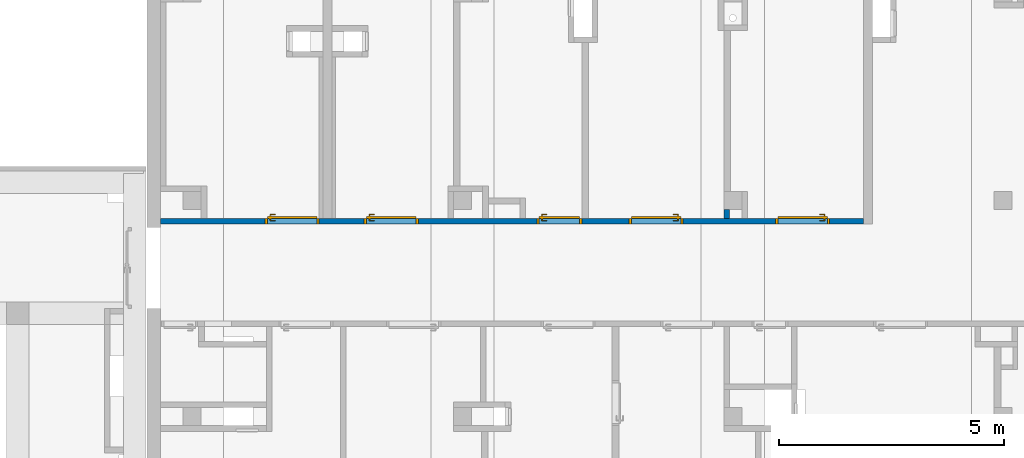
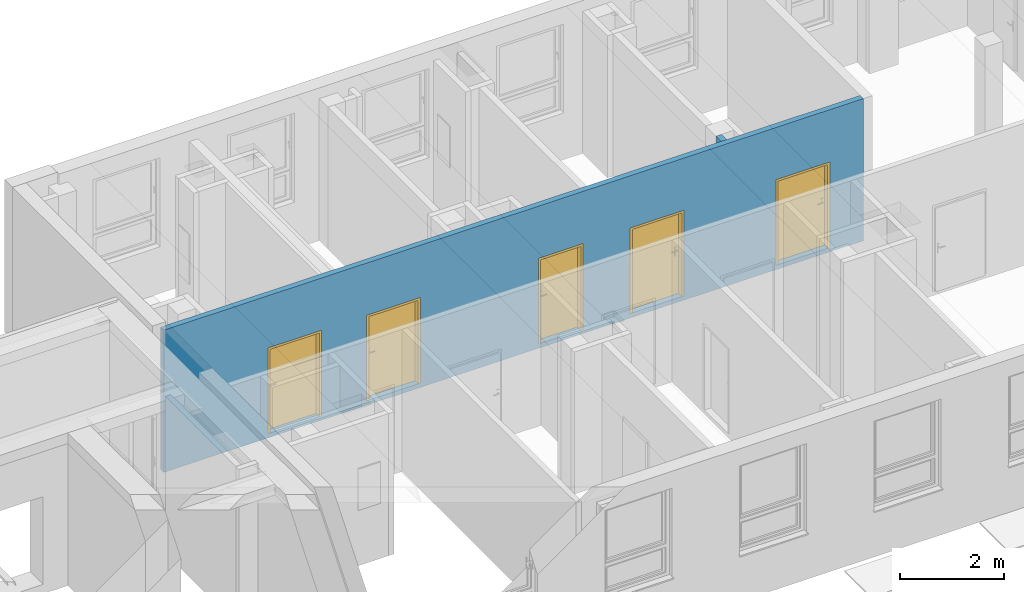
# One storey, part 23 of 140: 5 doors, 2 walls, 5 openings.
"""IFC4 building model written with IfcOpenShell, lengths in metres."""

from ifc_helpers import new_model, entity, si_unit, converted_unit, derived_unit, frame, frame_2d, origin, origin_with_axes, place, context, subcontext, project, spatial, polyline, rectangle, outline, extrude, closed_shell, open_shell, surface_model, source, transform, mapped, material, layer, layer_set, layer_usage, type_object, element, fill, save


model = new_model("IFC4")

# Units and contexts
model_context = context("Model", 3, precision=1e-05, world=origin())
body_context = subcontext(model_context, "Body", "Model", "MODEL_VIEW")
ifc_project = project(units=[si_unit("LENGTHUNIT", "METRE"), si_unit("AREAUNIT", "SQUARE_METRE"), si_unit("VOLUMEUNIT", "CUBIC_METRE"), si_unit("MASSUNIT", "GRAM", prefix="KILO"), converted_unit("PLANEANGLEUNIT", "DEGREE", entity("IfcPlaneAngleMeasure", 0.0174532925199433), si_unit("PLANEANGLEUNIT", "RADIAN"), dimensions=[0, 0, 0, 0, 0, 0, 0]), derived_unit("THERMALTRANSMITTANCEUNIT", [(si_unit("POWERUNIT", "WATT"), 1), (si_unit("THERMODYNAMICTEMPERATUREUNIT", "KELVIN"), -1), (si_unit("LENGTHUNIT", "METRE"), -2)]), derived_unit("VOLUMETRICFLOWRATEUNIT", [(si_unit("LENGTHUNIT", "METRE"), 3), (converted_unit("TIMEUNIT", "hour", entity("IfcTimeMeasure", 3600.0), si_unit("TIMEUNIT", "SECOND"), dimensions=[0, 0, 1, 0, 0, 0, 0]), -1), (si_unit("LENGTHUNIT", "METRE"), -1)])], contexts=[model_context])

# Site, building, storey
site_placement = place(None, origin())
site = spatial("IfcSite", under=ifc_project, at=site_placement, Name="3. ASŘ", CompositionType="ELEMENT")
building_placement = place(site_placement, origin())
building = spatial("IfcBuilding", under=site, at=building_placement, Name="Pavilon C", CompositionType="ELEMENT")
storey_placement = place(building_placement, origin())
storey = spatial("IfcBuildingStorey", under=building, at=storey_placement, Name="Půdorys 1.NP", CompositionType="ELEMENT", Elevation=0.0)

# Wall
ifc_material_1 = material(Name="ZDIVO Z CDm")
ifc_layer_1 = layer(ifc_material_1, 0.125)
ifc_layer_set_1 = layer_set([ifc_layer_1])
ifc_layer_usage_1 = layer_usage(ifc_layer_set_1, "AXIS2", "POSITIVE", 0.0)
wall_1_placement = place(storey_placement, frame((11.8, 10.0, -0.1), z_axis=(0.0, 0.0, 1.0), x_axis=(0.0, -1.0, 0.0)))
element("IfcWall", 1, at=wall_1_placement, inside=storey, material=ifc_layer_usage_1, Name="ZDIVO Z CDm", context=body_context, shape_type="SweptSolid", body=[
    extrude(rectangle(XDim=0.2, YDim=0.125, at=frame_2d((0.1, 0.0625), x_axis=(1.0, 0.0))), origin_with_axes(), (0.0, 0.0, 1.0), 3.35),
])

# Wall, openings, doors
ifc_material_2 = material(Name="ZDIVO Z CDm")
ifc_layer_2 = layer(ifc_material_2, 0.125)
ifc_layer_set_2 = layer_set([ifc_layer_2])
ifc_layer_usage_2 = layer_usage(ifc_layer_set_2, "AXIS2", "POSITIVE", 0.0)
wall_2_placement = place(storey_placement, frame((-0.699999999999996, 9.675, -0.1)))
wall_2 = element("IfcWall", 2, at=wall_2_placement, inside=storey, material=ifc_layer_usage_2, Name="ZDIVO Z CDm", context=body_context, shape_type="SweptSolid", body=[
    extrude(rectangle(XDim=15.6, YDim=0.125, at=frame_2d((7.8, 0.0625), x_axis=(1.0, 0.0))), origin_with_axes(), (0.0, 0.0, 1.0), 3.35),
])
opening_1_placement = place(wall_2_placement, frame((3.52000000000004, 0.125, 0.1), z_axis=(0.0, -1.0, 0.0), x_axis=(0.0, 0.0, 1.0)))
opening_1 = element("IfcOpeningElement", 3, at=opening_1_placement, cuts=wall_2, Name="Dveřní otvor", ObjectType="Opening", context=body_context, shape_type="SweptSolid", body=[
    extrude(outline(polyline([(0.0, 1.2), (2.02, 1.2), (2.02, 0.0), (0.0, 0.0), (0.0, 1.2)])), origin_with_axes(), (0.0, 0.0, 1.0), 0.125),
])
opening_2_placement = place(wall_2_placement, frame((5.72000000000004, 0.125, 0.1), z_axis=(0.0, -1.0, 0.0), x_axis=(0.0, 0.0, 1.0)))
opening_2 = element("IfcOpeningElement", 4, at=opening_2_placement, cuts=wall_2, Name="Dveřní otvor", ObjectType="Opening", context=body_context, shape_type="SweptSolid", body=[
    extrude(outline(polyline([(0.0, 1.2), (2.02, 1.2), (2.02, 0.0), (0.0, 0.0), (0.0, 1.2)])), origin_with_axes(), (0.0, 0.0, 1.0), 0.125),
])
opening_3_placement = place(wall_2_placement, frame((14.85, 0.125, 0.1), z_axis=(0.0, -1.0, 0.0), x_axis=(0.0, 0.0, 1.0)))
opening_3 = element("IfcOpeningElement", 5, at=opening_3_placement, cuts=wall_2, Name="Dveřní otvor", ObjectType="Opening", context=body_context, shape_type="SweptSolid", body=[
    extrude(outline(polyline([(0.0, 1.2), (2.02, 1.2), (2.02, 0.0), (0.0, 0.0), (0.0, 1.2)])), origin_with_axes(), (0.0, 0.0, 1.0), 0.125),
])
opening_4_placement = place(wall_2_placement, frame((11.6, 0.125, 0.1), z_axis=(0.0, -1.0, 0.0), x_axis=(0.0, 0.0, 1.0)))
opening_4 = element("IfcOpeningElement", 6, at=opening_4_placement, cuts=wall_2, Name="Dveřní otvor", ObjectType="Opening", context=body_context, shape_type="SweptSolid", body=[
    extrude(outline(polyline([(0.0, 1.2), (2.02, 1.2), (2.02, 0.0), (0.0, 0.0), (0.0, 1.2)])), origin_with_axes(), (0.0, 0.0, 1.0), 0.125),
])
opening_5_placement = place(wall_2_placement, frame((9.35000000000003, 0.125, 0.1), z_axis=(0.0, -1.0, 0.0), x_axis=(0.0, 0.0, 1.0)))
opening_5 = element("IfcOpeningElement", 7, at=opening_5_placement, cuts=wall_2, Name="Dveřní otvor", ObjectType="Opening", context=body_context, shape_type="SweptSolid", body=[
    extrude(outline(polyline([(0.0, 1.0), (2.02, 1.0), (2.02, 0.0), (0.0, 0.0), (0.0, 1.0)])), origin_with_axes(), (0.0, 0.0, 1.0), 0.125),
])
door_type_1 = type_object("IfcDoorType", Name="D101", OperationType="NOTDEFINED", ParameterTakesPrecedence=False, PredefinedType="DOOR")
shared_shape_1 = source(origin_with_axes(), body_context, "Body", "SurfaceModel", [
    surface_model("IfcShellBasedSurfaceModel", [(0.0, 0.125, 2.02), (0.0, 0.125, -7.65404249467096e-18), (0.05, 0.125, -7.65404249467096e-18), (0.05, 0.125, 2.02), (0.0, 0.0, 7.65404249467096e-18), (0.0, 2.41584530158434e-16, 2.02), (0.05, 2.41584530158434e-16, 2.02), (0.05, 0.0, 7.65404249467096e-18)], [closed_shell([[[0, 1, 2, 3]], [[4, 5, 6, 7]], [[1, 0, 5, 4]], [[2, 1, 4, 7]], [[3, 2, 7, 6]], [[0, 3, 6, 5]]], orient=[[False], [False], [False], [False], [False], [False]])]),
    surface_model("IfcShellBasedSurfaceModel", [(1.15, 0.125, 2.02), (1.15, 0.125, -7.65404249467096e-18), (1.2, 0.125, -7.65404249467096e-18), (1.2, 0.125, 2.02), (1.15, 0.0, 7.65404249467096e-18), (1.15, 2.41584530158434e-16, 2.02), (1.2, 2.41584530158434e-16, 2.02), (1.2, 0.0, 7.65404249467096e-18)], [closed_shell([[[0, 1, 2, 3]], [[4, 5, 6, 7]], [[1, 0, 5, 4]], [[2, 1, 4, 7]], [[3, 2, 7, 6]], [[0, 3, 6, 5]]], orient=[[False], [False], [False], [False], [False], [False]])]),
    surface_model("IfcShellBasedSurfaceModel", [(0.05, 0.125, 2.02), (0.05, 0.125, 1.97), (1.15, 0.125, 1.97), (1.15, 0.125, 2.02), (0.05, 2.41584530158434e-16, 1.97), (0.05, 2.41584530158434e-16, 2.02), (1.15, 2.41584530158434e-16, 2.02), (1.15, 2.41584530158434e-16, 1.97)], [closed_shell([[[0, 1, 2, 3]], [[4, 5, 6, 7]], [[1, 0, 5, 4]], [[2, 1, 4, 7]], [[3, 2, 7, 6]], [[0, 3, 6, 5]]], orient=[[False], [False], [False], [False], [False], [False]])]),
    surface_model("IfcShellBasedSurfaceModel", [(0.05, 0.165, 1.97), (0.05, 0.165, -1.25526296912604e-17), (1.15, 0.165, -1.25526296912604e-17), (1.15, 0.165, 1.97), (0.05, 0.125, -7.65404249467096e-18), (0.05, 0.125, 1.97), (1.15, 0.125, 1.97), (1.15, 0.125, -7.65404249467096e-18)], [closed_shell([[[0, 1, 2, 3]], [[4, 5, 6, 7]], [[1, 0, 5, 4]], [[2, 1, 4, 7]], [[3, 2, 7, 6]], [[0, 3, 6, 5]]], orient=[[False], [False], [False], [False], [False], [False]])]),
    surface_model("IfcShellBasedSurfaceModel", [(1.06, 0.125, 1.125), (1.06, 0.125, 0.91), (1.11, 0.125, 0.91), (1.11, 0.125, 1.125), (1.06, 0.115, 0.91), (1.06, 0.115, 1.125), (1.11, 0.115, 1.125), (1.11, 0.115, 0.91)], [closed_shell([[[0, 1, 2, 3]], [[4, 5, 6, 7]], [[1, 0, 5, 4]], [[2, 1, 4, 7]], [[3, 2, 7, 6]], [[0, 3, 6, 5]]], orient=[[False], [False], [False], [False], [False], [False]])]),
    surface_model("IfcShellBasedSurfaceModel", [(1.085, 0.115, 1.06), (1.08, 0.115, 1.05866025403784), (1.07633974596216, 0.115, 1.055), (1.075, 0.115, 1.05), (1.07633974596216, 0.115, 1.045), (1.08, 0.115, 1.04133974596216), (1.085, 0.115, 1.04), (1.09, 0.115, 1.04133974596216), (1.09366025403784, 0.115, 1.045), (1.095, 0.115, 1.05), (1.09366025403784, 0.115, 1.055), (1.09, 0.115, 1.05866025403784), (1.09, 0.0700000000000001, 1.05866025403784), (1.085, 0.0750000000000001, 1.06), (1.09366025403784, 0.0663397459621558, 1.055), (1.095, 0.0650000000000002, 1.05), (1.09366025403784, 0.0663397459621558, 1.045), (1.09, 0.0700000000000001, 1.04133974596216), (1.085, 0.0750000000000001, 1.04), (1.08, 0.0800000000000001, 1.04133974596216), (1.07633974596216, 0.0836602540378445, 1.045), (1.075, 0.0850000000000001, 1.05), (1.07633974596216, 0.0836602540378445, 1.055), (1.08, 0.0800000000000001, 1.05866025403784), (0.97, 0.0700000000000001, 1.05866025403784), (0.97, 0.0750000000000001, 1.06), (0.97, 0.0663397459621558, 1.055), (0.97, 0.0650000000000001, 1.05), (0.97, 0.0663397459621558, 1.045), (0.97, 0.0700000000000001, 1.04133974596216), (0.97, 0.0750000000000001, 1.04), (0.97, 0.0800000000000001, 1.04133974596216), (0.97, 0.0836602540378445, 1.045), (0.97, 0.0850000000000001, 1.05), (0.97, 0.0836602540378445, 1.055), (0.97, 0.0800000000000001, 1.05866025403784)], [open_shell([[[0, 1, 2, 3, 4, 5, 6, 7, 8, 9, 10, 11]], [[0, 11, 12, 13]], [[11, 10, 14, 12]], [[10, 9, 15, 14]], [[9, 8, 16, 15]], [[8, 7, 17, 16]], [[7, 6, 18, 17]], [[6, 5, 19, 18]], [[5, 4, 20, 19]], [[4, 3, 21, 20]], [[3, 2, 22, 21]], [[2, 1, 23, 22]], [[1, 0, 13, 23]], [[13, 12, 24, 25]], [[12, 14, 26, 24]], [[14, 15, 27, 26]], [[15, 16, 28, 27]], [[16, 17, 29, 28]], [[17, 18, 30, 29]], [[18, 19, 31, 30]], [[19, 20, 32, 31]], [[20, 21, 33, 32]], [[21, 22, 34, 33]], [[22, 23, 35, 34]], [[23, 13, 25, 35]]], orient=[[False], [False], [False], [False], [False], [False], [False], [False], [False], [False], [False], [False], [False], [False], [False], [False], [False], [False], [False], [False], [False], [False], [False], [False], [False]])]),
    surface_model("IfcShellBasedSurfaceModel", [(1.06, 0.165, 1.125), (1.11, 0.165, 1.125), (1.11, 0.165, 0.91), (1.06, 0.165, 0.91), (1.06, 0.175, 0.91), (1.11, 0.175, 0.91), (1.11, 0.175, 1.125), (1.06, 0.175, 1.125)], [closed_shell([[[0, 1, 2, 3]], [[4, 5, 6, 7]], [[3, 4, 7, 0]], [[2, 5, 4, 3]], [[1, 6, 5, 2]], [[0, 7, 6, 1]]], orient=[[False], [False], [False], [False], [False], [False]])]),
    surface_model("IfcShellBasedSurfaceModel", [(1.085, 0.175, 1.06), (1.09, 0.175, 1.05866025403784), (1.09366025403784, 0.175, 1.055), (1.095, 0.175, 1.05), (1.09366025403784, 0.175, 1.045), (1.09, 0.175, 1.04133974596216), (1.085, 0.175, 1.04), (1.08, 0.175, 1.04133974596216), (1.07633974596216, 0.175, 1.045), (1.075, 0.175, 1.05), (1.07633974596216, 0.175, 1.055), (1.08, 0.175, 1.05866025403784), (1.085, 0.215, 1.06), (1.09, 0.22, 1.05866025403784), (1.09366025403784, 0.223660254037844, 1.055), (1.095, 0.225, 1.05), (1.09366025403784, 0.223660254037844, 1.045), (1.09, 0.22, 1.04133974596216), (1.085, 0.215, 1.04), (1.08, 0.21, 1.04133974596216), (1.07633974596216, 0.206339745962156, 1.045), (1.075, 0.205, 1.05), (1.07633974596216, 0.206339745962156, 1.055), (1.08, 0.21, 1.05866025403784), (0.97, 0.215, 1.06), (0.97, 0.22, 1.05866025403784), (0.97, 0.223660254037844, 1.055), (0.97, 0.225, 1.05), (0.97, 0.223660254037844, 1.045), (0.97, 0.22, 1.04133974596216), (0.97, 0.215, 1.04), (0.97, 0.21, 1.04133974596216), (0.97, 0.206339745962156, 1.045), (0.97, 0.205, 1.05), (0.97, 0.206339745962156, 1.055), (0.97, 0.21, 1.05866025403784)], [open_shell([[[0, 1, 2, 3, 4, 5, 6, 7, 8, 9, 10, 11]], [[0, 12, 13, 1]], [[1, 13, 14, 2]], [[2, 14, 15, 3]], [[3, 15, 16, 4]], [[4, 16, 17, 5]], [[5, 17, 18, 6]], [[6, 18, 19, 7]], [[7, 19, 20, 8]], [[8, 20, 21, 9]], [[9, 21, 22, 10]], [[10, 22, 23, 11]], [[11, 23, 12, 0]], [[12, 24, 25, 13]], [[13, 25, 26, 14]], [[14, 26, 27, 15]], [[15, 27, 28, 16]], [[16, 28, 29, 17]], [[17, 29, 30, 18]], [[18, 30, 31, 19]], [[19, 31, 32, 20]], [[20, 32, 33, 21]], [[21, 33, 34, 22]], [[22, 34, 35, 23]], [[23, 35, 24, 12]]], orient=[[False], [False], [False], [False], [False], [False], [False], [False], [False], [False], [False], [False], [False], [False], [False], [False], [False], [False], [False], [False], [False], [False], [False], [False], [False]])]),
])
door_1_placement = place(opening_1_placement, frame((0.0, 0.0, 0.125), z_axis=(1.0, 0.0, 0.0), x_axis=(0.0, 1.0, -2.44929359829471e-16)))
door_1 = element("IfcDoor", 8, at=door_1_placement, inside=storey, type_object=door_type_1, Name="D101", OverallHeight=2.02, OverallWidth=1.2, context=body_context, shape_type="MappedRepresentation", body=[
    mapped(shared_shape_1, transform((0.0, 0.0, 0.0), x_axis=(1.0, 0.0, 0.0), y_axis=(0.0, -1.0, 0.0), z_axis=(0.0, 0.0, 1.0), scale=1.0)),
])
fill(opening_1, door_1)
door_type_2 = type_object("IfcDoorType", Name="D101", OperationType="NOTDEFINED", ParameterTakesPrecedence=False, PredefinedType="DOOR")
door_2_placement = place(opening_2_placement, frame((0.0, 0.0, 0.125), z_axis=(1.0, 0.0, 0.0), x_axis=(0.0, 1.0, -2.44929359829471e-16)))
door_2 = element("IfcDoor", 9, at=door_2_placement, inside=storey, type_object=door_type_2, Name="D101", OverallHeight=2.02, OverallWidth=1.2, context=body_context, shape_type="MappedRepresentation", body=[
    mapped(shared_shape_1, transform((0.0, 0.0, 0.0), x_axis=(1.0, 0.0, 0.0), y_axis=(0.0, -1.0, 0.0), z_axis=(0.0, 0.0, 1.0), scale=1.0)),
])
fill(opening_2, door_2)
door_type_3 = type_object("IfcDoorType", Name="D101", OperationType="NOTDEFINED", ParameterTakesPrecedence=False, PredefinedType="DOOR")
shared_shape_2 = source(origin_with_axes(), body_context, "Body", "SurfaceModel", [
    surface_model("IfcShellBasedSurfaceModel", [(0.0, 0.125, 2.02), (0.0, 0.125, -7.65404249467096e-18), (0.05, 0.125, -7.65404249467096e-18), (0.05, 0.125, 2.02), (0.0, 0.0, 7.65404249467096e-18), (0.0, 2.41584530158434e-16, 2.02), (0.05, 2.41584530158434e-16, 2.02), (0.05, 0.0, 7.65404249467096e-18)], [closed_shell([[[0, 1, 2, 3]], [[4, 5, 6, 7]], [[1, 0, 5, 4]], [[2, 1, 4, 7]], [[3, 2, 7, 6]], [[0, 3, 6, 5]]], orient=[[False], [False], [False], [False], [False], [False]])]),
    surface_model("IfcShellBasedSurfaceModel", [(1.15, 0.125, 2.02), (1.15, 0.125, -7.65404249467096e-18), (1.2, 0.125, -7.65404249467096e-18), (1.2, 0.125, 2.02), (1.15, 0.0, 7.65404249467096e-18), (1.15, 2.41584530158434e-16, 2.02), (1.2, 2.41584530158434e-16, 2.02), (1.2, 0.0, 7.65404249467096e-18)], [closed_shell([[[0, 1, 2, 3]], [[4, 5, 6, 7]], [[1, 0, 5, 4]], [[2, 1, 4, 7]], [[3, 2, 7, 6]], [[0, 3, 6, 5]]], orient=[[False], [False], [False], [False], [False], [False]])]),
    surface_model("IfcShellBasedSurfaceModel", [(0.05, 0.125, 2.02), (0.05, 0.125, 1.97), (1.15, 0.125, 1.97), (1.15, 0.125, 2.02), (0.05, 2.41584530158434e-16, 1.97), (0.05, 2.41584530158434e-16, 2.02), (1.15, 2.41584530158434e-16, 2.02), (1.15, 2.41584530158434e-16, 1.97)], [closed_shell([[[0, 1, 2, 3]], [[4, 5, 6, 7]], [[1, 0, 5, 4]], [[2, 1, 4, 7]], [[3, 2, 7, 6]], [[0, 3, 6, 5]]], orient=[[False], [False], [False], [False], [False], [False]])]),
    surface_model("IfcShellBasedSurfaceModel", [(0.05, 0.165, 1.97), (0.05, 0.165, -1.25526296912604e-17), (1.15, 0.165, -1.25526296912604e-17), (1.15, 0.165, 1.97), (0.05, 0.125, -7.65404249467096e-18), (0.05, 0.125, 1.97), (1.15, 0.125, 1.97), (1.15, 0.125, -7.65404249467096e-18)], [closed_shell([[[0, 1, 2, 3]], [[4, 5, 6, 7]], [[1, 0, 5, 4]], [[2, 1, 4, 7]], [[3, 2, 7, 6]], [[0, 3, 6, 5]]], orient=[[False], [False], [False], [False], [False], [False]])]),
    surface_model("IfcShellBasedSurfaceModel", [(1.06, 0.125, 1.125), (1.06, 0.125, 0.91), (1.11, 0.125, 0.91), (1.11, 0.125, 1.125), (1.06, 0.115, 0.91), (1.06, 0.115, 1.125), (1.11, 0.115, 1.125), (1.11, 0.115, 0.91)], [closed_shell([[[0, 1, 2, 3]], [[4, 5, 6, 7]], [[1, 0, 5, 4]], [[2, 1, 4, 7]], [[3, 2, 7, 6]], [[0, 3, 6, 5]]], orient=[[False], [False], [False], [False], [False], [False]])]),
    surface_model("IfcShellBasedSurfaceModel", [(1.085, 0.115, 1.06), (1.08, 0.115, 1.05866025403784), (1.07633974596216, 0.115, 1.055), (1.075, 0.115, 1.05), (1.07633974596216, 0.115, 1.045), (1.08, 0.115, 1.04133974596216), (1.085, 0.115, 1.04), (1.09, 0.115, 1.04133974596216), (1.09366025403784, 0.115, 1.045), (1.095, 0.115, 1.05), (1.09366025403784, 0.115, 1.055), (1.09, 0.115, 1.05866025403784), (1.09, 0.0700000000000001, 1.05866025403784), (1.085, 0.0750000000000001, 1.06), (1.09366025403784, 0.0663397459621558, 1.055), (1.095, 0.0650000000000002, 1.05), (1.09366025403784, 0.0663397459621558, 1.045), (1.09, 0.0700000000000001, 1.04133974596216), (1.085, 0.0750000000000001, 1.04), (1.08, 0.0800000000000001, 1.04133974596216), (1.07633974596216, 0.0836602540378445, 1.045), (1.075, 0.0850000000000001, 1.05), (1.07633974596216, 0.0836602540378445, 1.055), (1.08, 0.0800000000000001, 1.05866025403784), (0.97, 0.0700000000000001, 1.05866025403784), (0.97, 0.0750000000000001, 1.06), (0.97, 0.0663397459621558, 1.055), (0.97, 0.0650000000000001, 1.05), (0.97, 0.0663397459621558, 1.045), (0.97, 0.0700000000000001, 1.04133974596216), (0.97, 0.0750000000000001, 1.04), (0.97, 0.0800000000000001, 1.04133974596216), (0.97, 0.0836602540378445, 1.045), (0.97, 0.0850000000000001, 1.05), (0.97, 0.0836602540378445, 1.055), (0.97, 0.0800000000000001, 1.05866025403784)], [open_shell([[[0, 1, 2, 3, 4, 5, 6, 7, 8, 9, 10, 11]], [[0, 11, 12, 13]], [[11, 10, 14, 12]], [[10, 9, 15, 14]], [[9, 8, 16, 15]], [[8, 7, 17, 16]], [[7, 6, 18, 17]], [[6, 5, 19, 18]], [[5, 4, 20, 19]], [[4, 3, 21, 20]], [[3, 2, 22, 21]], [[2, 1, 23, 22]], [[1, 0, 13, 23]], [[13, 12, 24, 25]], [[12, 14, 26, 24]], [[14, 15, 27, 26]], [[15, 16, 28, 27]], [[16, 17, 29, 28]], [[17, 18, 30, 29]], [[18, 19, 31, 30]], [[19, 20, 32, 31]], [[20, 21, 33, 32]], [[21, 22, 34, 33]], [[22, 23, 35, 34]], [[23, 13, 25, 35]]], orient=[[False], [False], [False], [False], [False], [False], [False], [False], [False], [False], [False], [False], [False], [False], [False], [False], [False], [False], [False], [False], [False], [False], [False], [False], [False]])]),
    surface_model("IfcShellBasedSurfaceModel", [(1.06, 0.165, 1.125), (1.11, 0.165, 1.125), (1.11, 0.165, 0.91), (1.06, 0.165, 0.91), (1.06, 0.175, 0.91), (1.11, 0.175, 0.91), (1.11, 0.175, 1.125), (1.06, 0.175, 1.125)], [closed_shell([[[0, 1, 2, 3]], [[4, 5, 6, 7]], [[3, 4, 7, 0]], [[2, 5, 4, 3]], [[1, 6, 5, 2]], [[0, 7, 6, 1]]], orient=[[False], [False], [False], [False], [False], [False]])]),
    surface_model("IfcShellBasedSurfaceModel", [(1.085, 0.175, 1.06), (1.09, 0.175, 1.05866025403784), (1.09366025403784, 0.175, 1.055), (1.095, 0.175, 1.05), (1.09366025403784, 0.175, 1.045), (1.09, 0.175, 1.04133974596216), (1.085, 0.175, 1.04), (1.08, 0.175, 1.04133974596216), (1.07633974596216, 0.175, 1.045), (1.075, 0.175, 1.05), (1.07633974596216, 0.175, 1.055), (1.08, 0.175, 1.05866025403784), (1.085, 0.215, 1.06), (1.09, 0.22, 1.05866025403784), (1.09366025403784, 0.223660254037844, 1.055), (1.095, 0.225, 1.05), (1.09366025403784, 0.223660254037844, 1.045), (1.09, 0.22, 1.04133974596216), (1.085, 0.215, 1.04), (1.08, 0.21, 1.04133974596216), (1.07633974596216, 0.206339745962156, 1.045), (1.075, 0.205, 1.05), (1.07633974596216, 0.206339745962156, 1.055), (1.08, 0.21, 1.05866025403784), (0.97, 0.215, 1.06), (0.97, 0.22, 1.05866025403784), (0.97, 0.223660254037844, 1.055), (0.97, 0.225, 1.05), (0.97, 0.223660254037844, 1.045), (0.97, 0.22, 1.04133974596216), (0.97, 0.215, 1.04), (0.97, 0.21, 1.04133974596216), (0.97, 0.206339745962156, 1.045), (0.97, 0.205, 1.05), (0.97, 0.206339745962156, 1.055), (0.97, 0.21, 1.05866025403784)], [open_shell([[[0, 1, 2, 3, 4, 5, 6, 7, 8, 9, 10, 11]], [[0, 12, 13, 1]], [[1, 13, 14, 2]], [[2, 14, 15, 3]], [[3, 15, 16, 4]], [[4, 16, 17, 5]], [[5, 17, 18, 6]], [[6, 18, 19, 7]], [[7, 19, 20, 8]], [[8, 20, 21, 9]], [[9, 21, 22, 10]], [[10, 22, 23, 11]], [[11, 23, 12, 0]], [[12, 24, 25, 13]], [[13, 25, 26, 14]], [[14, 26, 27, 15]], [[15, 27, 28, 16]], [[16, 28, 29, 17]], [[17, 29, 30, 18]], [[18, 30, 31, 19]], [[19, 31, 32, 20]], [[20, 32, 33, 21]], [[21, 33, 34, 22]], [[22, 34, 35, 23]], [[23, 35, 24, 12]]], orient=[[False], [False], [False], [False], [False], [False], [False], [False], [False], [False], [False], [False], [False], [False], [False], [False], [False], [False], [False], [False], [False], [False], [False], [False], [False]])]),
])
door_3_placement = place(opening_3_placement, frame((0.0, 1.2, 0.125), z_axis=(1.0, 0.0, 0.0), x_axis=(0.0, -1.0, 2.44929359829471e-16)))
door_3 = element("IfcDoor", 10, at=door_3_placement, inside=storey, type_object=door_type_3, Name="D101", OverallHeight=2.02, OverallWidth=1.2, context=body_context, shape_type="MappedRepresentation", body=[
    mapped(shared_shape_2, transform((0.0, 0.0, 0.0), x_axis=(1.0, 0.0, 0.0), y_axis=(0.0, 1.0, 0.0), z_axis=(0.0, 0.0, 1.0), scale=1.0)),
])
fill(opening_3, door_3)
door_type_4 = type_object("IfcDoorType", Name="D101", OperationType="NOTDEFINED", ParameterTakesPrecedence=False, PredefinedType="DOOR")
door_4_placement = place(opening_4_placement, frame((0.0, 1.2, 0.125), z_axis=(1.0, 0.0, 0.0), x_axis=(0.0, -1.0, 2.44929359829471e-16)))
door_4 = element("IfcDoor", 11, at=door_4_placement, inside=storey, type_object=door_type_4, Name="D101", OverallHeight=2.02, OverallWidth=1.2, context=body_context, shape_type="MappedRepresentation", body=[
    mapped(shared_shape_2, transform((0.0, 0.0, 0.0), x_axis=(1.0, 0.0, 0.0), y_axis=(0.0, 1.0, 0.0), z_axis=(0.0, 0.0, 1.0), scale=1.0)),
])
fill(opening_4, door_4)
door_type_5 = type_object("IfcDoorType", Name="D101", OperationType="NOTDEFINED", ParameterTakesPrecedence=False, PredefinedType="DOOR")
shared_shape_3 = source(origin_with_axes(), body_context, "Body", "SurfaceModel", [
    surface_model("IfcShellBasedSurfaceModel", [(0.0, 0.125, 2.02), (0.0, 0.125, -7.65404249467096e-18), (0.05, 0.125, -7.65404249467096e-18), (0.05, 0.125, 2.02), (0.0, 0.0, 7.65404249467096e-18), (0.0, 2.41584530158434e-16, 2.02), (0.05, 2.41584530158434e-16, 2.02), (0.05, 0.0, 7.65404249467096e-18)], [closed_shell([[[0, 1, 2, 3]], [[4, 5, 6, 7]], [[1, 0, 5, 4]], [[2, 1, 4, 7]], [[3, 2, 7, 6]], [[0, 3, 6, 5]]], orient=[[False], [False], [False], [False], [False], [False]])]),
    surface_model("IfcShellBasedSurfaceModel", [(0.95, 0.125, 2.02), (0.95, 0.125, -7.65404249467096e-18), (1.0, 0.125, -7.65404249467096e-18), (1.0, 0.125, 2.02), (0.95, 0.0, 7.65404249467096e-18), (0.95, 2.41584530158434e-16, 2.02), (1.0, 2.41584530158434e-16, 2.02), (1.0, 0.0, 7.65404249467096e-18)], [closed_shell([[[0, 1, 2, 3]], [[4, 5, 6, 7]], [[1, 0, 5, 4]], [[2, 1, 4, 7]], [[3, 2, 7, 6]], [[0, 3, 6, 5]]], orient=[[False], [False], [False], [False], [False], [False]])]),
    surface_model("IfcShellBasedSurfaceModel", [(0.05, 0.125, 2.02), (0.05, 0.125, 1.97), (0.95, 0.125, 1.97), (0.95, 0.125, 2.02), (0.05, 2.41584530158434e-16, 1.97), (0.05, 2.41584530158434e-16, 2.02), (0.95, 2.41584530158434e-16, 2.02), (0.95, 2.41584530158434e-16, 1.97)], [closed_shell([[[0, 1, 2, 3]], [[4, 5, 6, 7]], [[1, 0, 5, 4]], [[2, 1, 4, 7]], [[3, 2, 7, 6]], [[0, 3, 6, 5]]], orient=[[False], [False], [False], [False], [False], [False]])]),
    surface_model("IfcShellBasedSurfaceModel", [(0.05, 0.165, 1.97), (0.05, 0.165, -1.25526296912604e-17), (0.95, 0.165, -1.25526296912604e-17), (0.95, 0.165, 1.97), (0.05, 0.125, -7.65404249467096e-18), (0.05, 0.125, 1.97), (0.95, 0.125, 1.97), (0.95, 0.125, -7.65404249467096e-18)], [closed_shell([[[0, 1, 2, 3]], [[4, 5, 6, 7]], [[1, 0, 5, 4]], [[2, 1, 4, 7]], [[3, 2, 7, 6]], [[0, 3, 6, 5]]], orient=[[False], [False], [False], [False], [False], [False]])]),
    surface_model("IfcShellBasedSurfaceModel", [(0.86, 0.125, 1.125), (0.86, 0.125, 0.91), (0.91, 0.125, 0.91), (0.91, 0.125, 1.125), (0.86, 0.115, 0.91), (0.86, 0.115, 1.125), (0.91, 0.115, 1.125), (0.91, 0.115, 0.91)], [closed_shell([[[0, 1, 2, 3]], [[4, 5, 6, 7]], [[1, 0, 5, 4]], [[2, 1, 4, 7]], [[3, 2, 7, 6]], [[0, 3, 6, 5]]], orient=[[False], [False], [False], [False], [False], [False]])]),
    surface_model("IfcShellBasedSurfaceModel", [(0.885, 0.115, 1.06), (0.88, 0.115, 1.05866025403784), (0.876339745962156, 0.115, 1.055), (0.875, 0.115, 1.05), (0.876339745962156, 0.115, 1.045), (0.88, 0.115, 1.04133974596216), (0.885, 0.115, 1.04), (0.89, 0.115, 1.04133974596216), (0.893660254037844, 0.115, 1.045), (0.895, 0.115, 1.05), (0.893660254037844, 0.115, 1.055), (0.89, 0.115, 1.05866025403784), (0.89, 0.0700000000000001, 1.05866025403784), (0.885, 0.0750000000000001, 1.06), (0.893660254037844, 0.0663397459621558, 1.055), (0.895, 0.0650000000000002, 1.05), (0.893660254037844, 0.0663397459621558, 1.045), (0.89, 0.0700000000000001, 1.04133974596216), (0.885, 0.0750000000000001, 1.04), (0.88, 0.0800000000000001, 1.04133974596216), (0.876339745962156, 0.0836602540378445, 1.045), (0.875, 0.0850000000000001, 1.05), (0.876339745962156, 0.0836602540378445, 1.055), (0.88, 0.0800000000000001, 1.05866025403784), (0.77, 0.0700000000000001, 1.05866025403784), (0.77, 0.0750000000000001, 1.06), (0.77, 0.0663397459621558, 1.055), (0.77, 0.0650000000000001, 1.05), (0.77, 0.0663397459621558, 1.045), (0.77, 0.0700000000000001, 1.04133974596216), (0.77, 0.0750000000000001, 1.04), (0.77, 0.0800000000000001, 1.04133974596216), (0.77, 0.0836602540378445, 1.045), (0.77, 0.0850000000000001, 1.05), (0.77, 0.0836602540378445, 1.055), (0.77, 0.0800000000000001, 1.05866025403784)], [open_shell([[[0, 1, 2, 3, 4, 5, 6, 7, 8, 9, 10, 11]], [[0, 11, 12, 13]], [[11, 10, 14, 12]], [[10, 9, 15, 14]], [[9, 8, 16, 15]], [[8, 7, 17, 16]], [[7, 6, 18, 17]], [[6, 5, 19, 18]], [[5, 4, 20, 19]], [[4, 3, 21, 20]], [[3, 2, 22, 21]], [[2, 1, 23, 22]], [[1, 0, 13, 23]], [[13, 12, 24, 25]], [[12, 14, 26, 24]], [[14, 15, 27, 26]], [[15, 16, 28, 27]], [[16, 17, 29, 28]], [[17, 18, 30, 29]], [[18, 19, 31, 30]], [[19, 20, 32, 31]], [[20, 21, 33, 32]], [[21, 22, 34, 33]], [[22, 23, 35, 34]], [[23, 13, 25, 35]]], orient=[[False], [False], [False], [False], [False], [False], [False], [False], [False], [False], [False], [False], [False], [False], [False], [False], [False], [False], [False], [False], [False], [False], [False], [False], [False]])]),
    surface_model("IfcShellBasedSurfaceModel", [(0.86, 0.165, 1.125), (0.91, 0.165, 1.125), (0.91, 0.165, 0.91), (0.86, 0.165, 0.91), (0.86, 0.175, 0.91), (0.91, 0.175, 0.91), (0.91, 0.175, 1.125), (0.86, 0.175, 1.125)], [closed_shell([[[0, 1, 2, 3]], [[4, 5, 6, 7]], [[3, 4, 7, 0]], [[2, 5, 4, 3]], [[1, 6, 5, 2]], [[0, 7, 6, 1]]], orient=[[False], [False], [False], [False], [False], [False]])]),
    surface_model("IfcShellBasedSurfaceModel", [(0.885, 0.175, 1.06), (0.89, 0.175, 1.05866025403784), (0.893660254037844, 0.175, 1.055), (0.895, 0.175, 1.05), (0.893660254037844, 0.175, 1.045), (0.89, 0.175, 1.04133974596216), (0.885, 0.175, 1.04), (0.88, 0.175, 1.04133974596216), (0.876339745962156, 0.175, 1.045), (0.875, 0.175, 1.05), (0.876339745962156, 0.175, 1.055), (0.88, 0.175, 1.05866025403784), (0.885, 0.215, 1.06), (0.89, 0.22, 1.05866025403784), (0.893660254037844, 0.223660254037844, 1.055), (0.895, 0.225, 1.05), (0.893660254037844, 0.223660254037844, 1.045), (0.89, 0.22, 1.04133974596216), (0.885, 0.215, 1.04), (0.88, 0.21, 1.04133974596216), (0.876339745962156, 0.206339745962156, 1.045), (0.875, 0.205, 1.05), (0.876339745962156, 0.206339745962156, 1.055), (0.88, 0.21, 1.05866025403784), (0.77, 0.215, 1.06), (0.77, 0.22, 1.05866025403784), (0.77, 0.223660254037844, 1.055), (0.77, 0.225, 1.05), (0.77, 0.223660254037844, 1.045), (0.77, 0.22, 1.04133974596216), (0.77, 0.215, 1.04), (0.77, 0.21, 1.04133974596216), (0.77, 0.206339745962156, 1.045), (0.77, 0.205, 1.05), (0.77, 0.206339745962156, 1.055), (0.77, 0.21, 1.05866025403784)], [open_shell([[[0, 1, 2, 3, 4, 5, 6, 7, 8, 9, 10, 11]], [[0, 12, 13, 1]], [[1, 13, 14, 2]], [[2, 14, 15, 3]], [[3, 15, 16, 4]], [[4, 16, 17, 5]], [[5, 17, 18, 6]], [[6, 18, 19, 7]], [[7, 19, 20, 8]], [[8, 20, 21, 9]], [[9, 21, 22, 10]], [[10, 22, 23, 11]], [[11, 23, 12, 0]], [[12, 24, 25, 13]], [[13, 25, 26, 14]], [[14, 26, 27, 15]], [[15, 27, 28, 16]], [[16, 28, 29, 17]], [[17, 29, 30, 18]], [[18, 30, 31, 19]], [[19, 31, 32, 20]], [[20, 32, 33, 21]], [[21, 33, 34, 22]], [[22, 34, 35, 23]], [[23, 35, 24, 12]]], orient=[[False], [False], [False], [False], [False], [False], [False], [False], [False], [False], [False], [False], [False], [False], [False], [False], [False], [False], [False], [False], [False], [False], [False], [False], [False]])]),
])
door_5_placement = place(opening_5_placement, frame((0.0, 0.0, 0.125), z_axis=(1.0, 0.0, 0.0), x_axis=(0.0, 1.0, -2.44929359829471e-16)))
door_5 = element("IfcDoor", 12, at=door_5_placement, inside=storey, type_object=door_type_5, Name="D101", OverallHeight=2.02, OverallWidth=1.0, context=body_context, shape_type="MappedRepresentation", body=[
    mapped(shared_shape_3, transform((0.0, 0.0, 0.0), x_axis=(1.0, 0.0, 0.0), y_axis=(0.0, -1.0, 0.0), z_axis=(0.0, 0.0, 1.0), scale=1.0)),
])
fill(opening_5, door_5)

save(model, "model.ifc")
